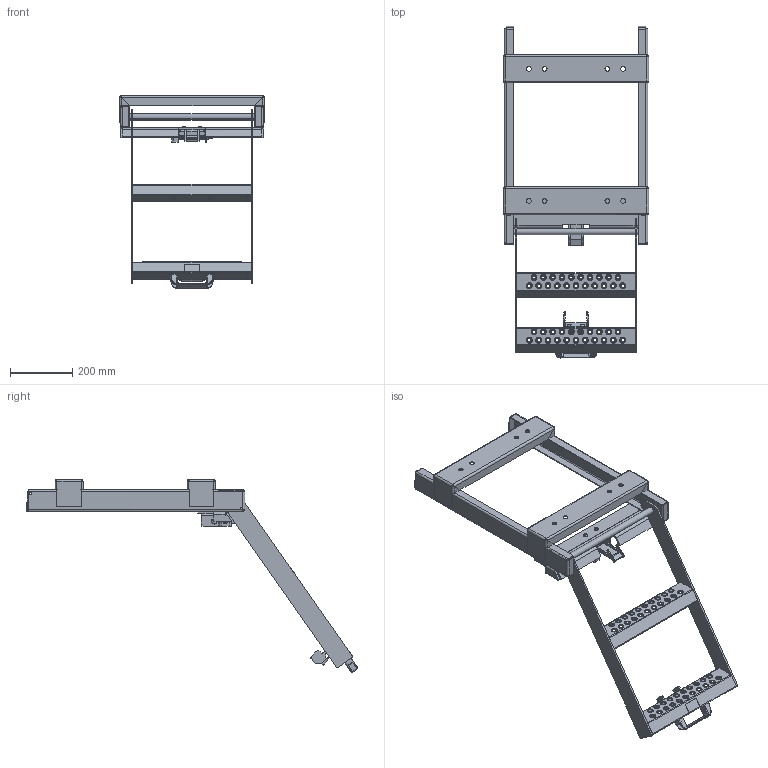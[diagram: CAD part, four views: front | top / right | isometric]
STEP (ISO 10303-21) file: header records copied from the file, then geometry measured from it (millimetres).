
FILE_DESCRIPTION (( 'STEP AP214' ), '1' );
FILE_NAME ('TL856008_APERTA_REV9.STEP', '2023-12-05T10:09:31', ( '' ), ( '' ), 'SwSTEP 2.0', 'SolidWorks 2023', '' );
FILE_SCHEMA (( 'AUTOMOTIVE_DESIGN' ));
Length unit declared in the file: millimetre
Products named in the file (33): TS8560278; TR1222; TS850024; TR0952; TS850025_rev01; TS8560255; torque nut 01_iso_TR0042; TR0727; TS8560260; TL856008_APERTA_REV9; TS8560234; TR1267; TS8560246; tr0857_3_3_1; TS8560257; TS8560107; TS856261; TR0455; TS8560262; TS8560276; TS8560277; TS8560258; TR1284; TS8560229; TS8560132; TR1269; TS8560254; TS8560275; TS8560144; TS8560109; TS8560230; TS8560259; socket button head screw_iso_ISO 7380 - M8 x 20 - 20N
Assembly tree (46 placements, depth 5):
  TL856008_APERTA_REV9
    TS8560258
      TS8560259
        TS8560109  x2
        TS8560107
        TS8560144
        TS8560229
          TS8560230
        TS8560260
    TR0727  x2
    TS8560262
      TS856261
        TS8560132  x2
        TS850024
        TS850025_rev01  x2
    tr0857_3_3_1
    TS8560257
      TS8560255
        TS8560254
      TS8560275
        TS8560276
          TS8560277  x2
          TS8560278
      TR1269
      TR0455
      TR1267
    TS8560246
      TS8560234
    TR1284
    TR0952
    torque nut 01_iso_TR0042  x6
    socket button head screw_iso_ISO 7380 - M8 x 20 - 20N  x4
    TR1222  x2
Bounding box: 467.5 x 1066.25 x 619.31 mm (x, y, z)
Volume: 2634870.5 mm3; surface area: 1421217.8 mm2
Topology: 35 solids, 179 shells, 1901 faces, 4866 edges, 3219 vertices
Faces by surface type: plane 815, cylinder 486, torus 288, cone 221, bspline 89, sphere 2
Entity records: 56615 total; most frequent: CARTESIAN_POINT 25707, DIRECTION 6302, ORIENTED_EDGE 5721, EDGE_CURVE 3241, AXIS2_PLACEMENT_3D 2331, VERTEX_POINT 2254, VECTOR 1640, LINE 1640
